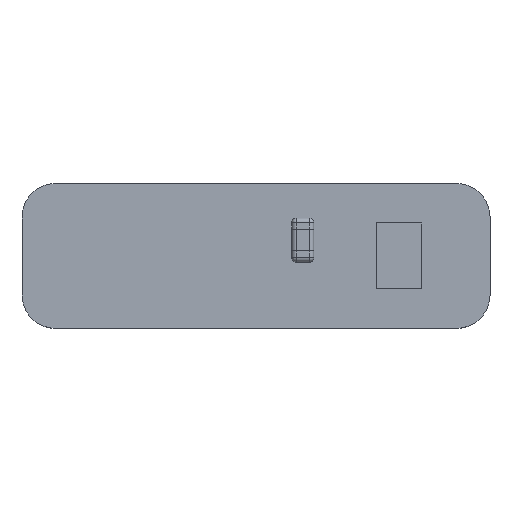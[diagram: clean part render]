
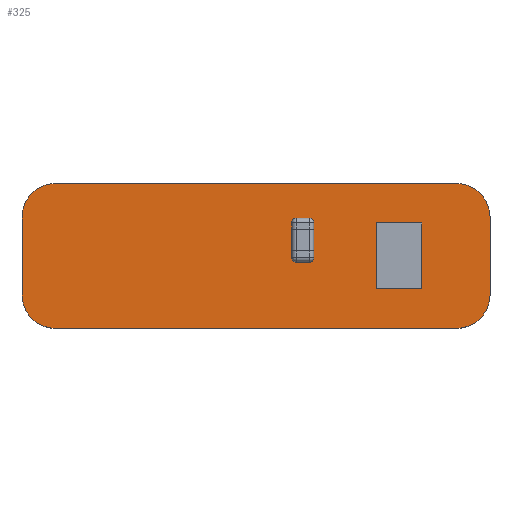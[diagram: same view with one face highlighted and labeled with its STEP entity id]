
A CAD part, top view. The second image highlights one B-rep face of the part: STEP entity #325.
In plain terms, the highlighted planar face has unit normal (0, 0, 1).
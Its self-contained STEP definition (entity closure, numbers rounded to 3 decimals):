
#60 = VERTEX_POINT('',#61);
#61 = CARTESIAN_POINT('',(0.,-0.888,1.676));
#67 = EDGE_CURVE('',#60,#68,#70,.T.);
#68 = VERTEX_POINT('',#69);
#69 = CARTESIAN_POINT('',(0.,0.888,1.676));
#70 = LINE('',#71,#72);
#71 = CARTESIAN_POINT('',(0.,-0.888,1.676));
#72 = VECTOR('',#73,1.);
#73 = DIRECTION('',(0.,1.,0.));
#98 = EDGE_CURVE('',#68,#99,#101,.T.);
#99 = VERTEX_POINT('',#100);
#100 = CARTESIAN_POINT('',(0.762,1.65,1.676));
#101 = CIRCLE('',#102,0.761);
#102 = AXIS2_PLACEMENT_3D('',#103,#104,#105);
#103 = CARTESIAN_POINT('',(0.761,0.889,1.676));
#104 = DIRECTION('',(0.,0.,-1.));
#105 = DIRECTION('',(-1.,-0.001,-0.));
#131 = EDGE_CURVE('',#99,#132,#134,.T.);
#132 = VERTEX_POINT('',#133);
#133 = CARTESIAN_POINT('',(9.906,1.651,1.676));
#134 = LINE('',#135,#136);
#135 = CARTESIAN_POINT('',(0.762,1.65,1.676));
#136 = VECTOR('',#137,1.);
#137 = DIRECTION('',(1.,0.,0.));
#162 = EDGE_CURVE('',#132,#163,#165,.T.);
#163 = VERTEX_POINT('',#164);
#164 = CARTESIAN_POINT('',(10.668,0.888,1.676));
#165 = CIRCLE('',#166,0.763);
#166 = AXIS2_PLACEMENT_3D('',#167,#168,#169);
#167 = CARTESIAN_POINT('',(9.905,0.888,1.676));
#168 = DIRECTION('',(0.,0.,-1.));
#169 = DIRECTION('',(0.001,1.,0.));
#195 = EDGE_CURVE('',#163,#196,#198,.T.);
#196 = VERTEX_POINT('',#197);
#197 = CARTESIAN_POINT('',(10.668,-0.888,1.676));
#198 = LINE('',#199,#200);
#199 = CARTESIAN_POINT('',(10.668,0.888,1.676));
#200 = VECTOR('',#201,1.);
#201 = DIRECTION('',(0.,-1.,0.));
#226 = EDGE_CURVE('',#196,#227,#229,.T.);
#227 = VERTEX_POINT('',#228);
#228 = CARTESIAN_POINT('',(9.906,-1.65,1.676));
#229 = CIRCLE('',#230,0.761);
#230 = AXIS2_PLACEMENT_3D('',#231,#232,#233);
#231 = CARTESIAN_POINT('',(9.907,-0.889,1.676));
#232 = DIRECTION('',(0.,0.,-1.));
#233 = DIRECTION('',(1.,0.001,0.));
#259 = EDGE_CURVE('',#227,#260,#262,.T.);
#260 = VERTEX_POINT('',#261);
#261 = CARTESIAN_POINT('',(0.762,-1.651,1.676));
#262 = LINE('',#263,#264);
#263 = CARTESIAN_POINT('',(9.906,-1.65,1.676));
#264 = VECTOR('',#265,1.);
#265 = DIRECTION('',(-1.,0.,0.));
#290 = EDGE_CURVE('',#260,#60,#291,.T.);
#291 = CIRCLE('',#292,0.763);
#292 = AXIS2_PLACEMENT_3D('',#293,#294,#295);
#293 = CARTESIAN_POINT('',(0.763,-0.888,1.676));
#294 = DIRECTION('',(0.,0.,-1.));
#295 = DIRECTION('',(-0.001,-1.,-0.));
#325 = ADVANCED_FACE('',(#326),#336,.F.);
#326 = FACE_BOUND('',#327,.F.);
#327 = EDGE_LOOP('',(#328,#329,#330,#331,#332,#333,#334,#335));
#328 = ORIENTED_EDGE('',*,*,#67,.T.);
#329 = ORIENTED_EDGE('',*,*,#98,.T.);
#330 = ORIENTED_EDGE('',*,*,#131,.T.);
#331 = ORIENTED_EDGE('',*,*,#162,.T.);
#332 = ORIENTED_EDGE('',*,*,#195,.T.);
#333 = ORIENTED_EDGE('',*,*,#226,.T.);
#334 = ORIENTED_EDGE('',*,*,#259,.T.);
#335 = ORIENTED_EDGE('',*,*,#290,.T.);
#336 = PLANE('',#337);
#337 = AXIS2_PLACEMENT_3D('',#338,#339,#340);
#338 = CARTESIAN_POINT('',(5.334,0.,1.676));
#339 = DIRECTION('',(-0.,-0.,-1.));
#340 = DIRECTION('',(-1.,0.,0.));
